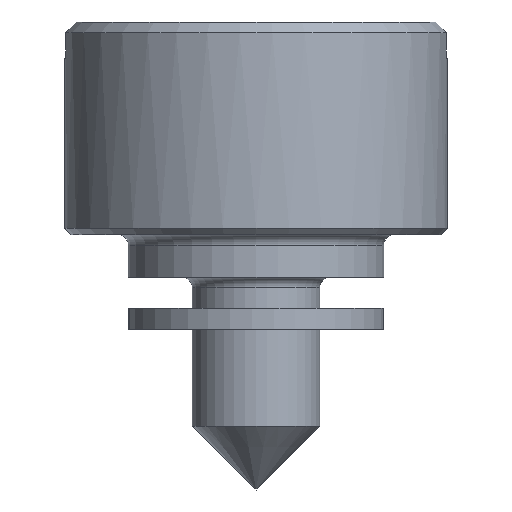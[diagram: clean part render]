
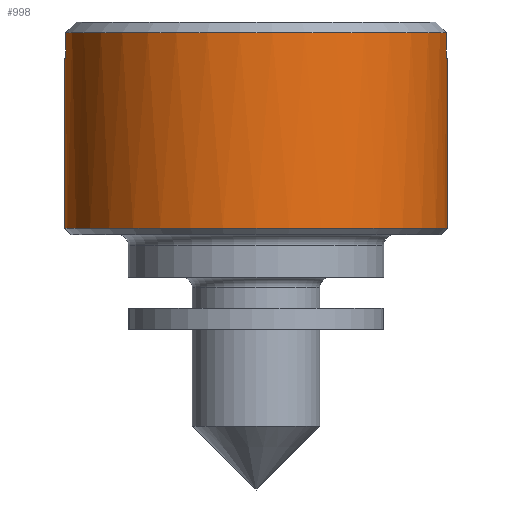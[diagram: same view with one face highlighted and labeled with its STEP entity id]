
A CAD part, front view. The second image highlights one B-rep face of the part: STEP entity #998.
In plain terms, the highlighted cylindrical face has radius 9 mm (diameter 18 mm), a partial arc.
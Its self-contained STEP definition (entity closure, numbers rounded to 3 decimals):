
#7 = EDGE_CURVE ( 'NONE', #1117, #165, #234, .T. ) ;
#11 = VERTEX_POINT ( 'NONE', #269 ) ;
#25 = EDGE_CURVE ( 'NONE', #1092, #11, #376, .T. ) ;
#29 = ORIENTED_EDGE ( 'NONE', *, *, #7, .T. ) ;
#50 = VERTEX_POINT ( 'NONE', #578 ) ;
#62 = ORIENTED_EDGE ( 'NONE', *, *, #829, .T. ) ;
#66 = EDGE_CURVE ( 'NONE', #142, #11, #691, .T. ) ;
#85 = ORIENTED_EDGE ( 'NONE', *, *, #66, .T. ) ;
#92 = EDGE_CURVE ( 'NONE', #1092, #242, #348, .T. ) ;
#123 = ORIENTED_EDGE ( 'NONE', *, *, #92, .T. ) ;
#142 = VERTEX_POINT ( 'NONE', #601 ) ;
#144 = VERTEX_POINT ( 'NONE', #613 ) ;
#165 = VERTEX_POINT ( 'NONE', #716 ) ;
#173 = EDGE_CURVE ( 'NONE', #50, #142, #437, .T. ) ;
#185 = CARTESIAN_POINT ( 'NONE',  ( 9., 0., -9.7 ) ) ;
#190 = EDGE_CURVE ( 'NONE', #50, #144, #452, .T. ) ;
#220 = CARTESIAN_POINT ( 'NONE',  ( -9., 0., -9.7 ) ) ;
#234 = CIRCLE ( 'NONE', #235, 9. ) ;
#235 = AXIS2_PLACEMENT_3D ( 'NONE', #236, #237, #238 ) ;
#236 = CARTESIAN_POINT ( 'NONE',  ( 0., 0., -1.7 ) ) ;
#237 = DIRECTION ( 'NONE',  ( 0., 0., -1. ) ) ;
#238 = DIRECTION ( 'NONE',  ( 0., 1., 0. ) ) ;
#242 = VERTEX_POINT ( 'NONE', #185 ) ;
#269 = CARTESIAN_POINT ( 'NONE',  ( -9., 0., -1.7 ) ) ;
#276 = ORIENTED_EDGE ( 'NONE', *, *, #25, .F. ) ;
#284 = LINE ( 'NONE', #285, #286 ) ;
#285 = CARTESIAN_POINT ( 'NONE',  ( 8.944, -1., 23.407 ) ) ;
#286 = VECTOR ( 'NONE', #287, 1000. ) ;
#287 = DIRECTION ( 'NONE',  ( 0., 0., 1. ) ) ;
#348 = CIRCLE ( 'NONE', #349, 9. ) ;
#349 = AXIS2_PLACEMENT_3D ( 'NONE', #350, #351, #352 ) ;
#350 = CARTESIAN_POINT ( 'NONE',  ( 0., 0., -9.7 ) ) ;
#351 = DIRECTION ( 'NONE',  ( 0., 0., 1. ) ) ;
#352 = DIRECTION ( 'NONE',  ( 1., 0., 0. ) ) ;
#376 = LINE ( 'NONE', #377, #378 ) ;
#377 = CARTESIAN_POINT ( 'NONE',  ( -9., 0., 23.407 ) ) ;
#378 = VECTOR ( 'NONE', #380, 1000. ) ;
#380 = DIRECTION ( 'NONE',  ( 0., 0., 1. ) ) ;
#419 = CARTESIAN_POINT ( 'NONE',  ( 9., 0., -1.7 ) ) ;
#437 = LINE ( 'NONE', #438, #439 ) ;
#438 = CARTESIAN_POINT ( 'NONE',  ( -8.944, -1., 23.407 ) ) ;
#439 = VECTOR ( 'NONE', #440, 1000. ) ;
#440 = DIRECTION ( 'NONE',  ( 0., 0., -1. ) ) ;
#452 = CIRCLE ( 'NONE', #453, 9. ) ;
#453 = AXIS2_PLACEMENT_3D ( 'NONE', #454, #455, #456 ) ;
#454 = CARTESIAN_POINT ( 'NONE',  ( 0., 0., -0.5 ) ) ;
#455 = DIRECTION ( 'NONE',  ( 0., 0., 1. ) ) ;
#456 = DIRECTION ( 'NONE',  ( 1., 0., 0. ) ) ;
#491 = LINE ( 'NONE', #492, #493 ) ;
#492 = CARTESIAN_POINT ( 'NONE',  ( 9., 0., 23.407 ) ) ;
#493 = VECTOR ( 'NONE', #497, 1000. ) ;
#497 = DIRECTION ( 'NONE',  ( 0., 0., 1. ) ) ;
#572 = FACE_OUTER_BOUND ( 'NONE', #777, .T. ) ;
#573 = CYLINDRICAL_SURFACE ( 'NONE', #574, 9. ) ;
#574 = AXIS2_PLACEMENT_3D ( 'NONE', #575, #576, #577 ) ;
#575 = CARTESIAN_POINT ( 'NONE',  ( 0., 0., 23.407 ) ) ;
#576 = DIRECTION ( 'NONE',  ( 0., 0., 1. ) ) ;
#577 = DIRECTION ( 'NONE',  ( 1., 0., 0. ) ) ;
#578 = CARTESIAN_POINT ( 'NONE',  ( -8.944, -1., -0.5 ) ) ;
#601 = CARTESIAN_POINT ( 'NONE',  ( -8.944, -1., -1.7 ) ) ;
#613 = CARTESIAN_POINT ( 'NONE',  ( 8.944, -1., -0.5 ) ) ;
#691 = CIRCLE ( 'NONE', #692, 9. ) ;
#692 = AXIS2_PLACEMENT_3D ( 'NONE', #693, #694, #695 ) ;
#693 = CARTESIAN_POINT ( 'NONE',  ( 0., 0., -1.7 ) ) ;
#694 = DIRECTION ( 'NONE',  ( 0., 0., -1. ) ) ;
#695 = DIRECTION ( 'NONE',  ( 0., 1., 0. ) ) ;
#706 = ORIENTED_EDGE ( 'NONE', *, *, #173, .T. ) ;
#716 = CARTESIAN_POINT ( 'NONE',  ( 8.944, -1., -1.7 ) ) ;
#777 = EDGE_LOOP ( 'NONE', ( #276, #123, #62, #29, #1123, #1032, #706, #85 ) ) ;
#829 = EDGE_CURVE ( 'NONE', #242, #1117, #491, .T. ) ;
#998 = ADVANCED_FACE ( 'NONE', ( #572 ), #573, .T. ) ;
#1032 = ORIENTED_EDGE ( 'NONE', *, *, #190, .F. ) ;
#1092 = VERTEX_POINT ( 'NONE', #220 ) ;
#1100 = EDGE_CURVE ( 'NONE', #165, #144, #284, .T. ) ;
#1117 = VERTEX_POINT ( 'NONE', #419 ) ;
#1123 = ORIENTED_EDGE ( 'NONE', *, *, #1100, .T. ) ;
